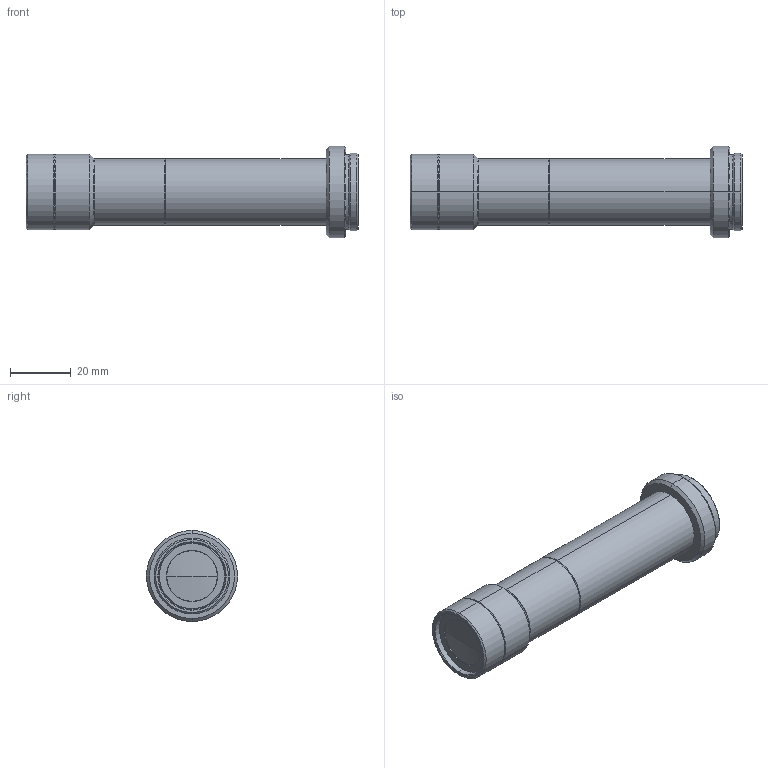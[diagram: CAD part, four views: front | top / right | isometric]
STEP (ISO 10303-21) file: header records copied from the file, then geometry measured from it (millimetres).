
FILE_DESCRIPTION (( 'STEP AP203' ), '1' );
FILE_NAME ('VS-TCH4-65.STEP', '2015-01-28T00:57:19', ( 'miura_vst' ), ( '' ), 'SwSTEP 2.0', 'SolidWorks 2014', '' );
FILE_SCHEMA (( 'CONFIG_CONTROL_DESIGN' ));
Length unit declared in the file: millimetre
Products named in the file (1): VS-TCH4-65
Bounding box: 109.3 x 30 x 30 mm (x, y, z)
Volume: 34544.1 mm3; surface area: 14041.8 mm2
Topology: 1 solids, 1 shells, 100 faces, 200 edges, 115 vertices
Faces by surface type: cone 52, cylinder 32, plane 14, sphere 2
Entity records: 2657 total; most frequent: DIRECTION 518, CARTESIAN_POINT 416, ORIENTED_EDGE 400, AXIS2_PLACEMENT_3D 217, EDGE_CURVE 200, CIRCLE 116, VERTEX_POINT 115, EDGE_LOOP 113
